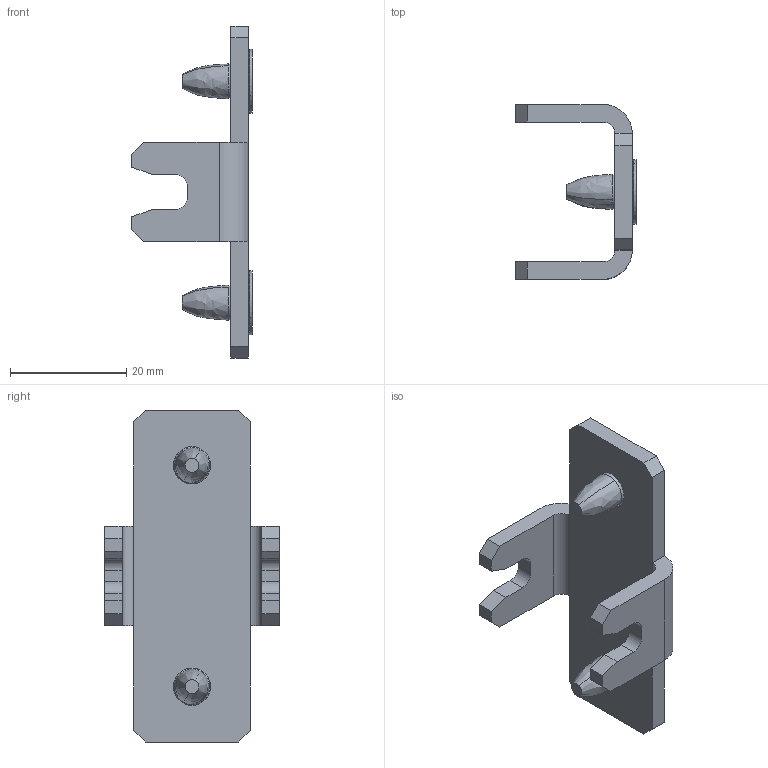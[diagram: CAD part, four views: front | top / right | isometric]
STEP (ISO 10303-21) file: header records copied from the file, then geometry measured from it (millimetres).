
FILE_DESCRIPTION (( 'STEP AP203' ), '1' );
FILE_NAME ('CCEH06_V0.STEP', '2018-02-08T12:26:49', ( '' ), ( '' ), 'SwSTEP 2.0', 'SolidWorks 2017', '' );
FILE_SCHEMA (( 'CONFIG_CONTROL_DESIGN' ));
Length unit declared in the file: millimetre
Products named in the file (6): 7949-0612-81_COUNTERS. EXTR-TITE M6x12 T30_1; 7818-0309; CCEH06_V0
Assembly tree (3 placements, depth 2):
  7949-0612-81_COUNTERS. EXTR-TITE M6x12 T30_1
  7949-0612-81_COUNTERS. EXTR-TITE M6x12 T30_1
  CCEH06_V0
    7949-0612-81_COUNTERS. EXTR-TITE M6x12 T30_1  x2
    7818-0309
  7818-0309
Bounding box: 20.66 x 30 x 57 mm (x, y, z)
Volume: 5512.9 mm3; surface area: 4909.1 mm2
Topology: 3 solids, 3 shells, 258 faces, 648 edges, 378 vertices
Faces by surface type: torus 94, cylinder 78, plane 44, sphere 26, cone 12, bspline 4
Entity records: 5206 total; most frequent: DIRECTION 905, CARTESIAN_POINT 866, ORIENTED_EDGE 752, AXIS2_PLACEMENT_3D 376, EDGE_CURVE 376, VERTEX_POINT 225, CIRCLE 215, EDGE_LOOP 161
